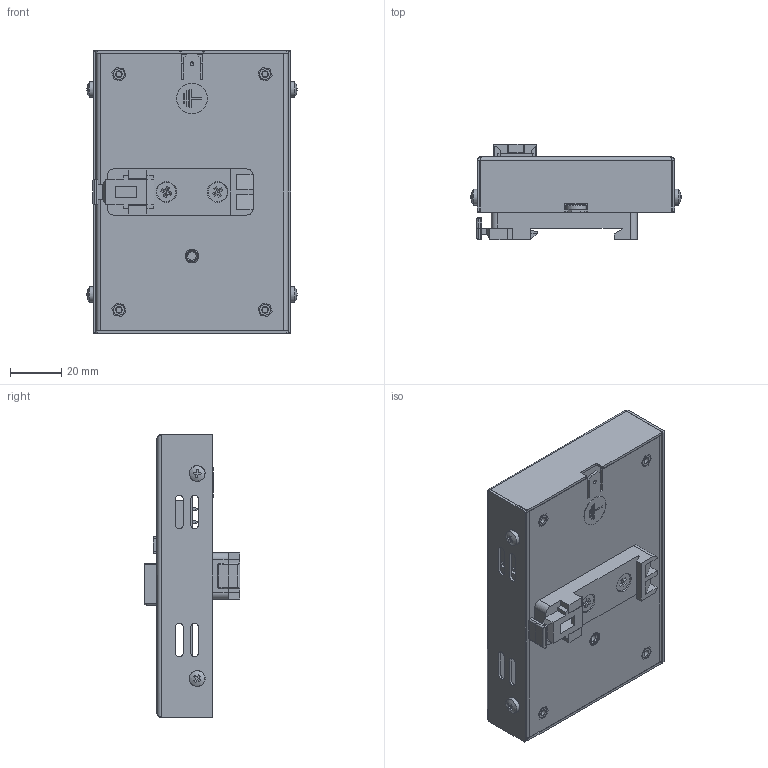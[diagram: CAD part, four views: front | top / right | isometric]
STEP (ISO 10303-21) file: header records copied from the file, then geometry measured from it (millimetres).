
FILE_DESCRIPTION (( 'STEP AP214' ), '1' );
FILE_NAME ('ECL_LP_in_Hutschienengehäuse_reduziert_Stand04092018.STEP', '2018-09-04T09:37:07', ( '' ), ( '' ), 'SwSTEP 2.0', 'SolidWorks 2017', '' );
FILE_SCHEMA (( 'AUTOMOTIVE_DESIGN' ));
Length unit declared in the file: millimetre
Products named in the file (1): ECL_LP_in_Hutschienengehäuse_reduziert_Stand04092018
Bounding box: 81.99 x 37.24 x 110.3 mm (x, y, z)
Volume: 47016.5 mm3; surface area: 77880.6 mm2
Topology: 54 solids, 54 shells, 1367 faces, 3384 edges, 2199 vertices
Faces by surface type: plane 975, cylinder 304, cone 60, sphere 16, bspline 10, torus 2
Full cylindrical faces by diameter (mm): 0.9 x8, 1 x11, 1.2 x2, 1.4 x2, 1.5 x1, 1.6 x2, 2.3 x2, 2.5 x8, 3 x8, 3.125 x4, 3.2 x6, 3.3 x8, 3.59 x4, 4 x2, 4.125 x4, 4.19 x4, 4.2 x4, 4.22 x4, 4.25 x4, 5.38 x4, 5.4 x4, 6 x8, 6.3 x4, 7.5 x2, 7.9 x4, 12 x1
Entity records: 55834 total; most frequent: CARTESIAN_POINT 7660, DIRECTION 6630, ORIENTED_EDGE 6430, EDGE_CURVE 3215, LINE 2388, VECTOR 2388, VERTEX_POINT 2183, AXIS2_PLACEMENT_3D 2121
